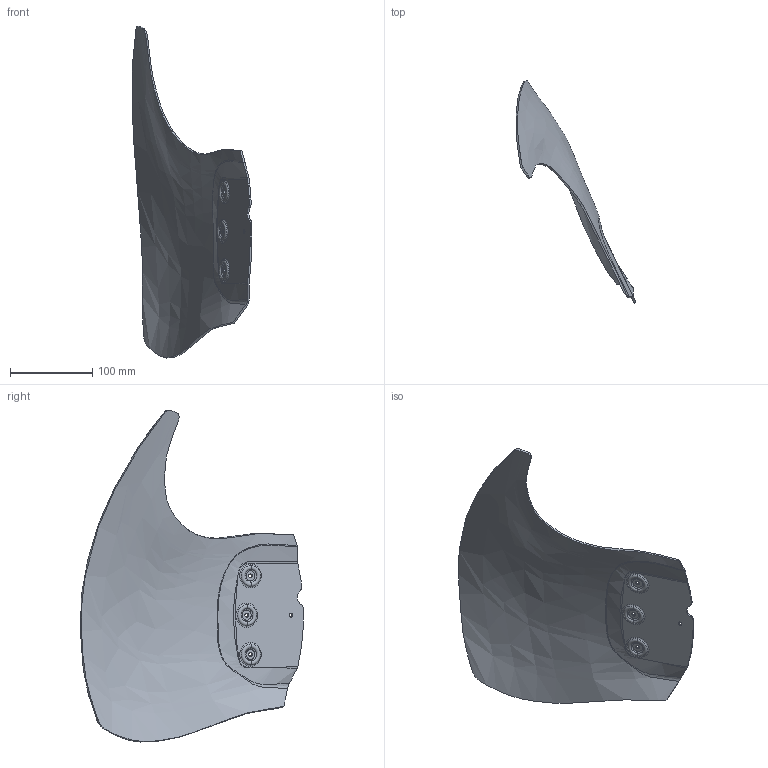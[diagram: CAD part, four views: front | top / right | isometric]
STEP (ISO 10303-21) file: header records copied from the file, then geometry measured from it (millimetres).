
FILE_DESCRIPTION (( 'STEP AP203' ), '1' );
FILE_NAME ('40-699 REF.STEP', '2025-05-15T19:11:09', ( '' ), ( '' ), 'SwSTEP 2.0', 'SolidWorks 2023', '' );
FILE_SCHEMA (( 'CONFIG_CONTROL_DESIGN' ));
Length unit declared in the file: inch
Products named in the file (1): 40-699 REF
Bounding box: 145.52 x 270.49 x 402.86 mm (x, y, z)
Volume: 177410 mm3; surface area: 155779.4 mm2
Topology: 1 solids, 1 shells, 92 faces, 232 edges, 136 vertices
Faces by surface type: torus 36, bspline 30, cylinder 18, plane 8
Entity records: 26596 total; most frequent: CARTESIAN_POINT 24540, ORIENTED_EDGE 440, DIRECTION 378, EDGE_CURVE 220, AXIS2_PLACEMENT_3D 181, VERTEX_POINT 136, CIRCLE 118, EDGE_LOOP 106
